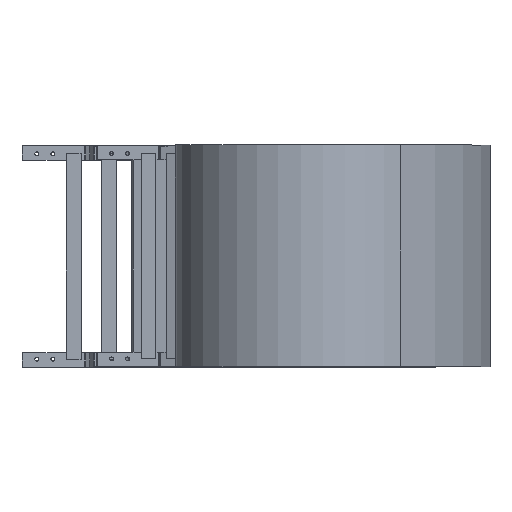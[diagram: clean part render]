
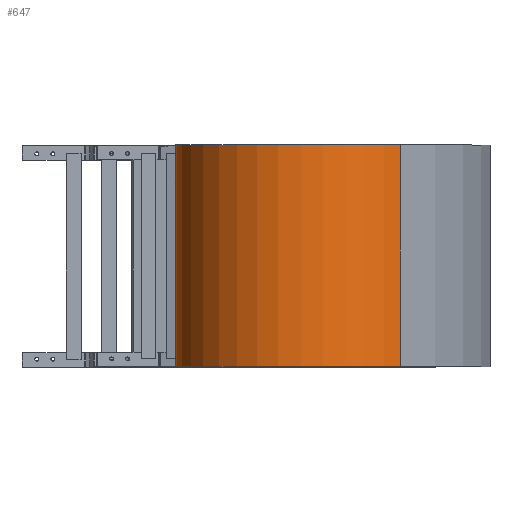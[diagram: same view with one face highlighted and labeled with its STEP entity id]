
A CAD part, top view. The second image highlights one B-rep face of the part: STEP entity #647.
In plain terms, the highlighted cylindrical face has radius 200 mm (diameter 400 mm), a partial arc.
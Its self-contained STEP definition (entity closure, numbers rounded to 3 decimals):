
#647 = ADVANCED_FACE( '', ( #1392 ), #1393, .T. );
#1392 = FACE_OUTER_BOUND( '', #2252, .T. );
#1393 = CYLINDRICAL_SURFACE( '', #2253, 200. );
#2252 = EDGE_LOOP( '', ( #4006, #4007, #4008, #4009 ) );
#2253 = AXIS2_PLACEMENT_3D( '', #4010, #4011, #4012 );
#4006 = ORIENTED_EDGE( '', *, *, #5939, .T. );
#4007 = ORIENTED_EDGE( '', *, *, #5473, .F. );
#4008 = ORIENTED_EDGE( '', *, *, #5940, .F. );
#4009 = ORIENTED_EDGE( '', *, *, #5941, .T. );
#4010 = CARTESIAN_POINT( '', ( 273.499, 172.5, 241.709 ) );
#4011 = DIRECTION( '', ( 0., 1., 0. ) );
#4012 = DIRECTION( '', ( 0., 0., -1. ) );
#5473 = EDGE_CURVE( '', #6695, #6690, #6697, .T. );
#5939 = EDGE_CURVE( '', #7413, #6690, #7414, .T. );
#5940 = EDGE_CURVE( '', #7415, #6695, #7416, .T. );
#5941 = EDGE_CURVE( '', #7415, #7413, #7417, .T. );
#6690 = VERTEX_POINT( '', #8391 );
#6695 = VERTEX_POINT( '', #8397 );
#6697 = LINE( '', #8399, #8400 );
#7413 = VERTEX_POINT( '', #9437 );
#7414 = CIRCLE( '', #9438, 200. );
#7415 = VERTEX_POINT( '', #9439 );
#7416 = CIRCLE( '', #9440, 200. );
#7417 = LINE( '', #9441, #9442 );
#8391 = CARTESIAN_POINT( '', ( 423.362, -172.5, 374.152 ) );
#8397 = CARTESIAN_POINT( '', ( 423.362, 172.5, 374.152 ) );
#8399 = CARTESIAN_POINT( '', ( 423.362, 172.5, 374.152 ) );
#8400 = VECTOR( '', #10209, 1000. );
#9437 = CARTESIAN_POINT( '', ( 123.637, -172.5, 109.266 ) );
#9438 = AXIS2_PLACEMENT_3D( '', #10666, #10667, #10668 );
#9439 = CARTESIAN_POINT( '', ( 123.637, 172.5, 109.266 ) );
#9440 = AXIS2_PLACEMENT_3D( '', #10669, #10670, #10671 );
#9441 = CARTESIAN_POINT( '', ( 123.637, 172.5, 109.266 ) );
#9442 = VECTOR( '', #10672, 1000. );
#10209 = DIRECTION( '', ( 0., -1., 0. ) );
#10666 = CARTESIAN_POINT( '', ( 273.499, -172.5, 241.709 ) );
#10667 = DIRECTION( '', ( 0., 1., 0. ) );
#10668 = DIRECTION( '', ( 1., 0., 0. ) );
#10669 = CARTESIAN_POINT( '', ( 273.499, 172.5, 241.709 ) );
#10670 = DIRECTION( '', ( 0., 1., 0. ) );
#10671 = DIRECTION( '', ( 1., 0., 0. ) );
#10672 = DIRECTION( '', ( 0., -1., 0. ) );
